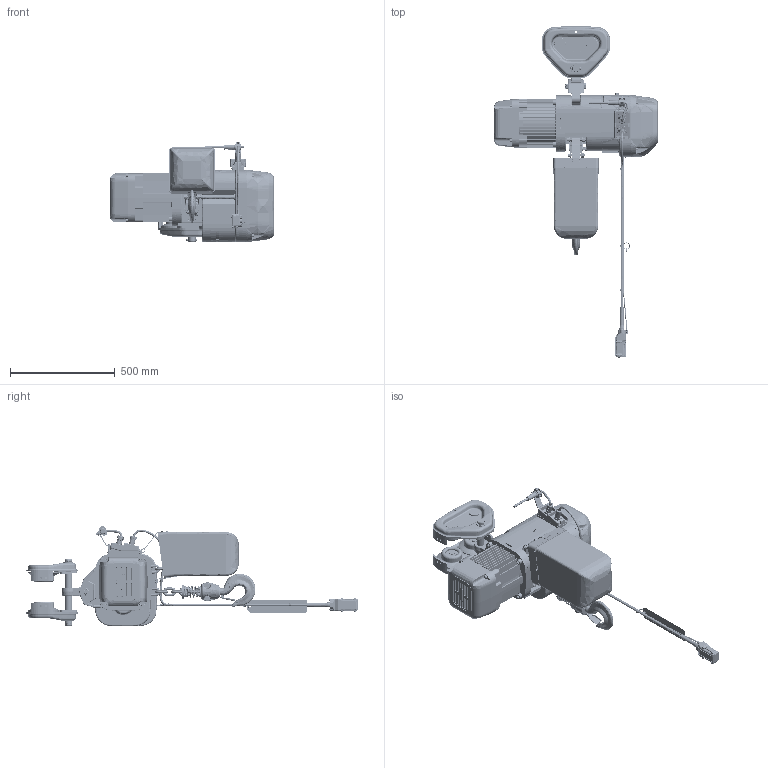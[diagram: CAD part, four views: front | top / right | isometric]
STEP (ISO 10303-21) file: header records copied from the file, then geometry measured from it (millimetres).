
FILE_DESCRIPTION (( 'STEP AP214' ), '1' );
FILE_NAME ('ERP030L.STEP', '2026-08-05T15:54:54', ( '' ), ( '' ), 'SwSTEP 2.0', 'SolidWorks 2026', '' );
FILE_SCHEMA (( 'AUTOMOTIVE_DESIGN' ));
Length unit declared in the file: inch
Products named in the file (68): ER1ES21221_FIXING SHAFT ASSEMBLY.IGS; ER1FS90542_LIMITING PLATE.IGS; ER1ES91171_PACKING C.IGS; J1BG1-0802525_SOCKET BOLT.IGS; ER1ES91162_PACKING G.IGS; ER1FS90041_LEVER SPRING.IGS; T7GA0309141; J1BE2-1604545_SOCKET BOLT.IGS; ER1ES61211_TOP PIN ASSEMBLY.IGS; ER1ES91051_MOTOR FRAME.IGS; ES088020L; J1BE1-1008532_SOCKET BOLT.IGS; ER030LTop Yoke Suspension_Top Connection Yoke; ER1ES11042_CONTROLLER COVER ASSEMBLY.IGS; Z6EC103H10002_PUSH BUTTON CORD EH ASSEMBLY.IGS; 9047125_B27.7M - 3AM1-23; ER1BS95342_CABLE SUPPORT L.IGS; ER1ES15112_SOCKET FRAME COMPLETE SET.IGS; T6G800030P; 9009436_9009436; C2BA200-90741_LEVER NUT.IGS; ER1FS90022_LEVER.IGS; ER1ES91182_PACKING M.IGS; PTS2030_5" FLANGE; T7GB004030; T6GA0309113; J1AP2-5002020_PAN HEAD MACHINE SCREW.IGS; ER1ES54042_CHAIN CONTAINER(E1) ASSEMBLY.IGS; ER1FS93312_CHAIN GUIDE A.IGS; ER1ES13381_LIMIT LEVER PIN ASSEMBLY.IGS; MS104030; ER1FS93372_LIMIT LEVER S.IGS; ER1FS9028; J1BE2-0804040,J1WH012-10080_BOLT,WASHER.IGS; J1GR020-0630; T7G117030; ER1ES9032; ER1BS95122_SOCKET FRAME PACKING.IGS; ER1FS10112_BOTTOM HOOK COMPLETE SET.IGS; T7GA0309142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
Assembly tree (82 placements, depth 4):
  ERP030L
    PTS2030_5" FLANGE
      T7GA0305112  x2
        T6GA0309112
        T6GA0309103
        T6GA0309113
        T7GA0309141
        T7GA0309142
      T6G5102030  x4
        T6GA0309102
        J1GR020-0630
      MS104030  x4
      9047125_B27.7M - 3AM1-23  x4
      T7G115030
      T7G117030
      MS164020  x2
      9009432_9009432  x2
      T6G800030P
    ER030LTop Yoke Suspension_Top Connection Yoke
      ER030L-LV2.IGS
        ER1ES71014_BODY B ASSEMBLY.IGS
        ER1ES91051_MOTOR FRAME.IGS
        ER1ES91071_FAN COVER.IGS
        ER1ES91182_PACKING M.IGS
        ER1ES91162_PACKING G.IGS
        ER1ES61033_GEAR CASE F ASSEMBLY.IGS
        WR2BS91351_OIL PLUG B.IGS
        E2YS005-91161_EYEBOLT PACKING.IGS
        ER1ES91171_PACKING C.IGS
        ER1ES11042_CONTROLLER COVER ASSEMBLY.IGS
        ER1CHM30L9A32_NAME PLATE B.IGS
        ER1FS93312_CHAIN GUIDE A.IGS
        J1BE1-1008532_SOCKET BOLT.IGS
        J1BE1-1007532_SOCKET BOLT.IGS
        C2BA200-90741_LEVER NUT.IGS  x2
        ER1ES54042_CHAIN CONTAINER(E1) ASSEMBLY.IGS
        ER1ES61211_TOP PIN ASSEMBLY.IGS
        ER1FS90022_LEVER.IGS
        C2BA020-90743_LEVER NUT.IGS
        ER1ES90032_LEVER BOLT.IGS
        ER1FS90041_LEVER SPRING.IGS
        ER1FS10112_BOTTOM HOOK COMPLETE SET.IGS
        ER1FS90512_CHAIN SPRING.IGS
        ER1FS90542_LIMITING PLATE.IGS
        ER1FS90413_STOPPER.IGS  x2
        K6CN125J00000_LOAD CHAIN.IGS
        ER1FS90533_CUSHION RUBBER.IGS
        J1BG1-0802525_SOCKET BOLT.IGS
        ER1BS95122_SOCKET FRAME PACKING.IGS
        ER1ES15112_SOCKET FRAME COMPLETE SET.IGS
        Z5CC103-10002_POWER SUPPLY CABLE ASSEMBLY.IGS
        ER1BS95342_CABLE SUPPORT L.IGS
        ER1FS93372_LIMIT LEVER S.IGS
        ER1ES13381_LIMIT LEVER PIN ASSEMBLY.IGS
        Z6EC103H10002_PUSH BUTTON CORD EH ASSEMBLY.IGS
        J1BE2-0804040,J1WH012-10080_BOLT,WASHER.IGS
        J1BE2-1604545_SOCKET BOLT.IGS
        J1BE2-0805528,J1WH012-10080_BOLT,WASHER.IGS
        ER1ES21221_FIXING SHAFT ASSEMBLY.IGS
        J1AP2-5001212_PAN HEAD MACHINE SCREW.IGS
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Bounding box: 786.5 x 1582.3 x 478.25 mm (x, y, z)
Volume: 42183956.7 mm3; surface area: 4466476.8 mm2
Topology: 147 solids, 317 shells, 12711 faces, 35221 edges, 23608 vertices
Faces by surface type: bspline 8417, plane 2936, cylinder 777, torus 367, cone 190, sphere 24
Entity records: 555900 total; most frequent: CARTESIAN_POINT 304297, ORIENTED_EDGE 60386, EDGE_CURVE 30488, VERTEX_POINT 20652, B_SPLINE_CURVE_WITH_KNOTS 18252, DIRECTION 13985, EDGE_LOOP 11846, FACE_OUTER_BOUND 10924
